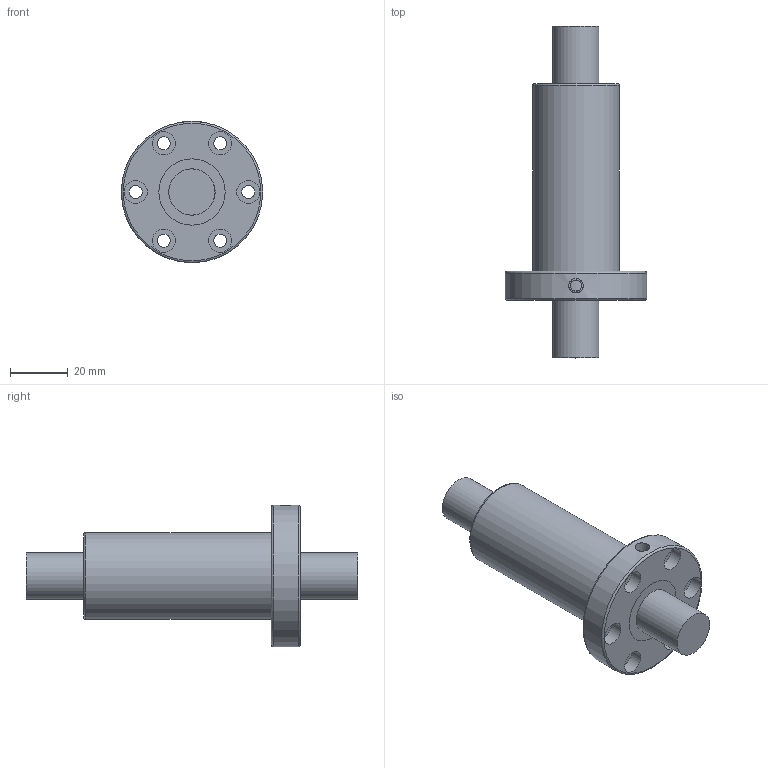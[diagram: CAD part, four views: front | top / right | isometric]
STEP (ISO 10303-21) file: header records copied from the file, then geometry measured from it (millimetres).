
FILE_DESCRIPTION(/* description */ (''),/* implementation_level */ '2;1');
FILE_NAME(/* name */ 'OFI01605-4.stp',/* time_stamp */ '2017-03-13T10:41:06+08:00',/* author */ (''),/* organization */ (''),/* preprocessor_version */ 'ST-DEVELOPER v11',/* originating_system */ 'SIEMENS UGS NX 6.0',/* authorisation */ '');
FILE_SCHEMA (('CONFIG_CONTROL_DESIGN'));
Length unit declared in the file: millimetre
Products named in the file (1): OFI01605-4
Bounding box: 49 x 115 x 49 mm (x, y, z)
Volume: 70685.9 mm3; surface area: 23874.2 mm2
Topology: 4 solids, 4 shells, 45 faces, 88 edges, 58 vertices
Faces by surface type: cylinder 24, plane 18, torus 3
Full cylindrical faces by diameter (mm): 4 x1, 4.5 x6, 5 x1, 8 x6, 16 x4, 23 x4, 30 x1, 49 x1
Entity records: 1232 total; most frequent: CARTESIAN_POINT 273, DIRECTION 196, ORIENTED_EDGE 112, EDGE_LOOP 100, FACE_BOUND 97, AXIS2_PLACEMENT_3D 97, EDGE_CURVE 56, VERTEX_POINT 54
